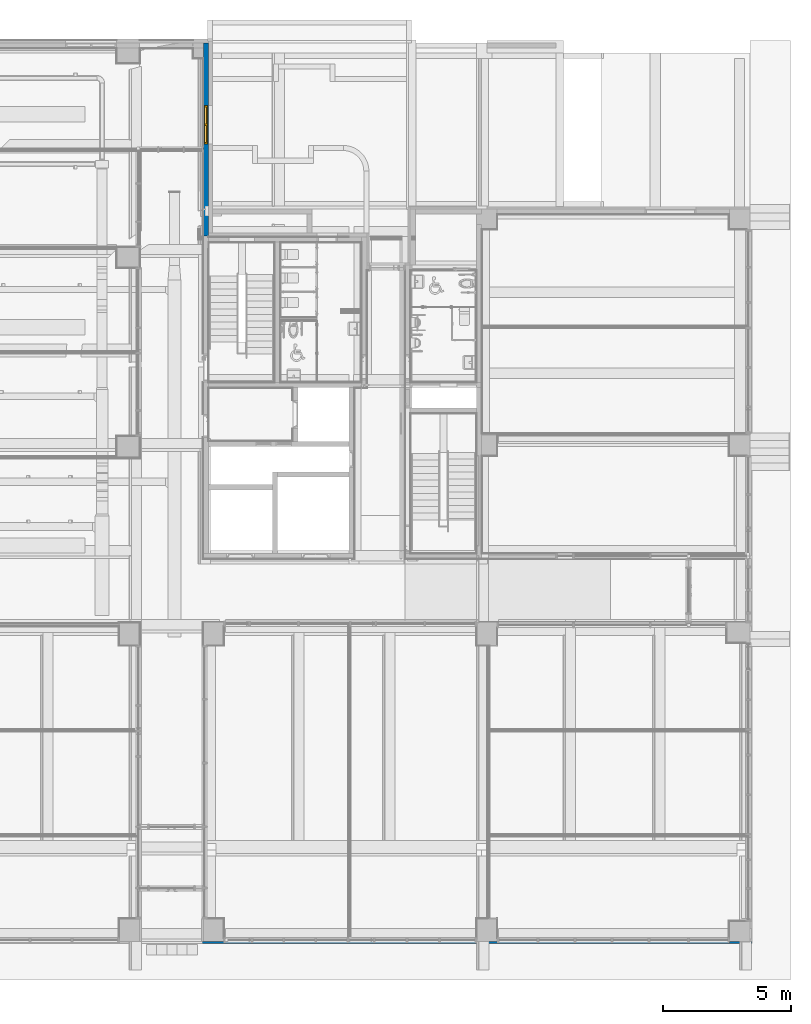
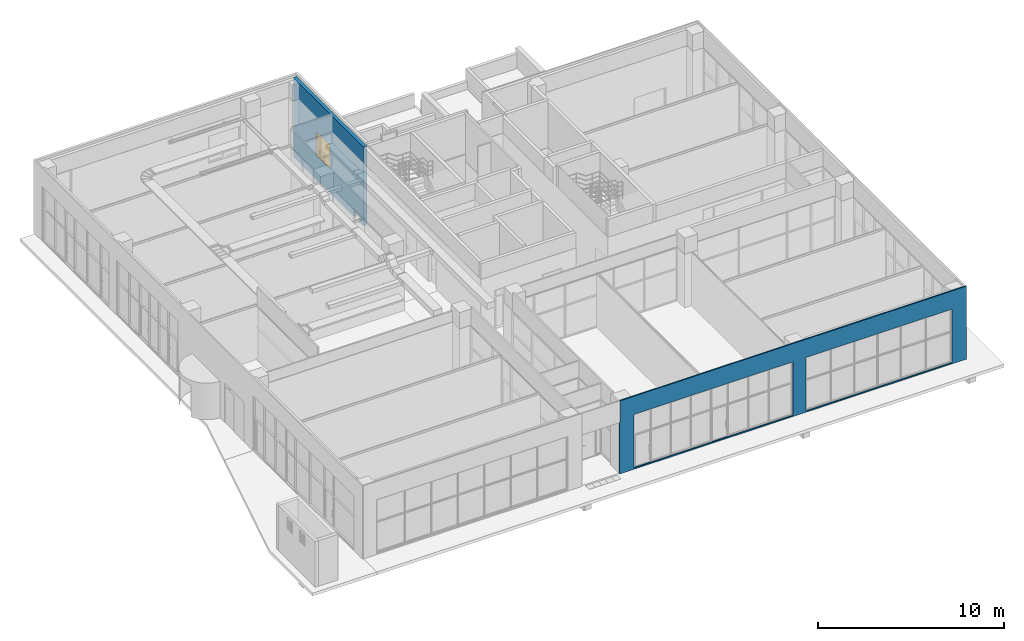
# One storey, part 66 of 100: 2 walls, 1 window, 1 opening.
"""IFC2X3 building model written with IfcOpenShell, lengths in millimetres."""

from ifc_helpers import new_model, entity, si_unit, converted_unit, derived_unit, direction, frame, frame_2d, origin, place, context, subcontext, project, spatial, rectangle, extrude, faceted_brep, source, transform, mapped, material, material_list, layer, layer_set, type_object, type_shapes, element, fill, save


model = new_model("IFC2X3")

# Units and contexts
model_context = context("Model", 3, precision=0.01, world=origin(), true_north=direction((6.123031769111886e-17, 1.0)))
body_context = subcontext(model_context, "Body", "Model", "MODEL_VIEW")
ifc_project = project(units=[si_unit("LENGTHUNIT", "METRE", prefix="MILLI"), si_unit("AREAUNIT", "SQUARE_METRE"), si_unit("VOLUMEUNIT", "CUBIC_METRE"), converted_unit("PLANEANGLEUNIT", "DEGREE", entity("IfcRatioMeasure", 0.017453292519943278), si_unit("PLANEANGLEUNIT", "RADIAN"), dimensions=[0, 0, 0, 0, 0, 0, 0]), si_unit("MASSUNIT", "GRAM", prefix="KILO"), derived_unit("MASSDENSITYUNIT", [(si_unit("MASSUNIT", "GRAM", prefix="KILO"), 1), (si_unit("LENGTHUNIT", "METRE"), -3)]), derived_unit("MOMENTOFINERTIAUNIT", [(si_unit("LENGTHUNIT", "METRE"), 4)]), si_unit("TIMEUNIT", "SECOND"), si_unit("FREQUENCYUNIT", "HERTZ"), si_unit("THERMODYNAMICTEMPERATUREUNIT", "DEGREE_CELSIUS"), derived_unit("THERMALTRANSMITTANCEUNIT", [(si_unit("MASSUNIT", "GRAM", prefix="KILO"), 1), (si_unit("THERMODYNAMICTEMPERATUREUNIT", "KELVIN"), -1), (si_unit("TIMEUNIT", "SECOND"), -3)]), derived_unit("VOLUMETRICFLOWRATEUNIT", [(si_unit("LENGTHUNIT", "METRE"), 3), (si_unit("TIMEUNIT", "SECOND"), -1)]), derived_unit("MASSFLOWRATEUNIT", [(si_unit("MASSUNIT", "GRAM", prefix="KILO"), 1), (si_unit("TIMEUNIT", "SECOND"), -1)]), derived_unit("ROTATIONALFREQUENCYUNIT", [(si_unit("TIMEUNIT", "SECOND"), -1)]), si_unit("ELECTRICCURRENTUNIT", "AMPERE"), si_unit("ELECTRICVOLTAGEUNIT", "VOLT"), si_unit("POWERUNIT", "WATT"), si_unit("FORCEUNIT", "NEWTON", prefix="KILO"), si_unit("ILLUMINANCEUNIT", "LUX"), si_unit("LUMINOUSFLUXUNIT", "LUMEN"), si_unit("LUMINOUSINTENSITYUNIT", "CANDELA"), derived_unit("USERDEFINED", [(si_unit("MASSUNIT", "GRAM", prefix="KILO"), -1), (si_unit("LENGTHUNIT", "METRE"), -2), (si_unit("TIMEUNIT", "SECOND"), 3), (si_unit("LUMINOUSFLUXUNIT", "LUMEN"), 1)]), derived_unit("SOUNDPOWERUNIT", [(si_unit("MASSUNIT", "GRAM", prefix="KILO"), 1), (si_unit("LENGTHUNIT", "METRE"), 2), (si_unit("TIMEUNIT", "SECOND"), -3)]), derived_unit("SOUNDPRESSUREUNIT", [(si_unit("MASSUNIT", "GRAM", prefix="KILO"), 1), (si_unit("LENGTHUNIT", "METRE"), -1), (si_unit("TIMEUNIT", "SECOND"), -2)]), derived_unit("LINEARVELOCITYUNIT", [(si_unit("LENGTHUNIT", "METRE"), 1), (si_unit("TIMEUNIT", "SECOND"), -1)]), si_unit("PRESSUREUNIT", "PASCAL"), derived_unit("USERDEFINED", [(si_unit("LENGTHUNIT", "METRE"), -2), (si_unit("MASSUNIT", "GRAM", prefix="KILO"), 1), (si_unit("TIMEUNIT", "SECOND"), -2)]), derived_unit("LINEARFORCEUNIT", [(si_unit("MASSUNIT", "GRAM", prefix="KILO"), 1), (si_unit("LENGTHUNIT", "METRE"), 1), (si_unit("TIMEUNIT", "SECOND"), -2), (si_unit("LENGTHUNIT", "METRE"), -1)]), derived_unit("PLANARFORCEUNIT", [(si_unit("MASSUNIT", "GRAM", prefix="KILO"), 1), (si_unit("LENGTHUNIT", "METRE"), 1), (si_unit("TIMEUNIT", "SECOND"), -2), (si_unit("LENGTHUNIT", "METRE"), -2)])], contexts=[model_context])

# Site, building, storey
site_placement = place(None, frame((-14167.972527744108, -657.2125860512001, 0.0)))
site = spatial("IfcSite", under=ifc_project, at=site_placement, Name="Default", CompositionType="ELEMENT")
building_placement = place(site_placement, origin())
building = spatial("IfcBuilding", under=site, at=building_placement, Name="Sample Building", CompositionType="ELEMENT")
storey_placement = place(building_placement, origin())
storey = spatial("IfcBuildingStorey", under=building, at=storey_placement, Name="지상 1층", CompositionType="ELEMENT", Elevation=0.0)

# Wall, opening, window
ifc_material_1 = material(Name="KBIMS-콘크리트")
ifc_layer_1 = layer(ifc_material_1, 200.0)
ifc_layer_set_1 = layer_set([ifc_layer_1], Name="기본 벽:WA111-철근콘크리트구조 벽 200mm_CW1")
wall_type_1 = type_object("IfcWallType", Name="기본 벽:WA111-철근콘크리트구조 벽 200mm_CW1", PredefinedType="STANDARD", material=ifc_layer_set_1)
wall_1_placement = place(storey_placement, frame((30166.125814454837, 28197.212295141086, -550.0), z_axis=(0.0, 0.0, 1.0), x_axis=(0.0, 1.0, 0.0)))
wall_1 = element("IfcWall", 1, at=wall_1_placement, inside=storey, type_object=wall_type_1, Name="기본 벽:WA111-철근콘크리트구조 벽 200mm_CW1", ObjectType="기본 벽:WA111-철근콘크리트구조 벽 200mm_CW1", context=body_context, shape_type="Brep", body=[
    faceted_brep([(1060.0000128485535, -100.0, 0.0), (1039.3215138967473, -100.0, 0.0), (1030.2291888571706, 0.0816834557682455, 0.0), (1019.4893677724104, 100.0, 0.0), (1060.0000128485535, 100.0, 0.0), (7560.0, 100.0, 0.0), (7560.0, -100.0, 0.0), (7160.0, -100.0, 0.0), (6959.864820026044, -100.0, 0.0), (437.0566962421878, -100.0, 0.0), (0.0, -100.0, 0.0), (0.0, 100.0, 0.0), (415.03541534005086, 100.0, 0.0), (426.96071725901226, 0.10071008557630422, 0.0), (437.0566962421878, -100.0, 400.0), (0.0, -100.0, 550.0), (1039.3215138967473, -100.0, 400.0), (0.0, -100.0, 5200.0), (3610.0, -100.0, 3150.0), (3610.0, -100.0, 1550.0), (5110.0, -100.0, 1550.0), (5110.0, -100.0, 3150.0), (7560.0, -100.0, 5200.0), (6960.000321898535, -100.0, 5200.0), (7560.0, 100.0, 550.0), (5110.0, 100.0, 1550.0), (5110.0, 100.0, 3150.0), (7360.0, 100.0, 5200.0), (7560.0, 100.0, 5200.0), (3610.0, 100.0, 1550.0), (1019.4893677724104, 100.0, 400.0), (3610.0, 100.0, 3150.0), (0.0, 100.0, 5200.0), (0.0, 100.0, 550.0), (415.03541534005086, 100.0, 400.0), (6960.000321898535, 100.0, 5200.0), (1030.2273595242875, 0.10013132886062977, 400.0), (426.9587160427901, 0.11888510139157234, 400.0)], [[[0, 1, 2, 3, 4, 5, 6, 7, 8]], [[9, 10, 11, 12, 13]], [[14, 10, 9]], [[15, 10, 14]], [[14, 16, 15]], [[17, 15, 16]], [[17, 16, 18]], [[19, 18, 16]], [[0, 19, 16]], [[16, 1, 0]], [[8, 19, 0]], [[8, 20, 19]], [[20, 8, 7]], [[20, 7, 21]], [[21, 7, 6]], [[6, 22, 21]], [[21, 22, 23]], [[21, 23, 18]], [[18, 23, 17]], [[24, 5, 25]], [[24, 25, 26]], [[24, 26, 27]], [[28, 24, 27]], [[5, 29, 25]], [[4, 29, 5]], [[30, 29, 4]], [[30, 4, 3]], [[30, 31, 29]], [[30, 32, 31]], [[33, 32, 30]], [[33, 30, 34]], [[33, 34, 11]], [[11, 34, 12]], [[31, 32, 35]], [[35, 26, 31]], [[26, 35, 27]], [[15, 17, 32, 33, 11, 10]], [[22, 6, 5, 24, 28]], [[22, 28, 27, 35, 32, 17, 23]], [[36, 16, 14, 37, 34, 30]], [[2, 1, 16]], [[36, 2, 16]], [[30, 3, 36]], [[2, 36, 3]], [[34, 37, 12]], [[12, 37, 13]], [[13, 14, 9]], [[14, 13, 37]], [[26, 25, 20, 21]], [[31, 26, 21, 18]], [[29, 31, 18, 19]], [[25, 29, 19, 20]]]),
])
opening_placement = place(wall_1_placement, frame((5110.0, 100.0, 1550.0)))
opening = element("IfcOpeningElement", 2, at=opening_placement, cuts=wall_1, Name="WD842-2단 하부 더블 프로젝트 창(스테인리스 스틸):WD842-2단 하부 더블 프로젝트 창(스테인리스 스틸)_1500x1600mm:1", ObjectType="Opening", context=body_context, shape_type="SweptSolid", body=[
    extrude(rectangle(XDim=1600.0000000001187, YDim=1499.9999999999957, at=frame_2d((800.0000000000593, 749.9999999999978), x_axis=(1.0, 0.0))), frame((0.0, 0.0, 0.0), z_axis=(0.0, -1.0, 0.0), x_axis=(0.0, 0.0, 1.0)), (0.0, 0.0, 1.0), 200.0),
])
ifc_material_2 = material(Name="KBIMS-스테인리스 스틸_도금")
ifc_material_3 = material(Name="KBIMS-유리")
ifc_material_list_1 = material_list([ifc_material_2, ifc_material_3, ifc_material_2, ifc_material_3, ifc_material_2, ifc_material_2, ifc_material_3])
ifc_material_list_2 = material_list([ifc_material_2, ifc_material_3, ifc_material_2, ifc_material_3, ifc_material_2, ifc_material_2, ifc_material_3])
window_style = type_object("IfcWindowStyle", Name="WD842-2단 하부 더블 프로젝트 창(스테인리스 스틸):WD842-2단 하부 더블 프로젝트 창(스테인리스 스틸)_1500x1600mm", ConstructionType="NOTDEFINED", OperationType="NOTDEFINED", ParameterTakesPrecedence=False, Sizeable=False, material=ifc_material_list_2)
shared_shape = source(origin(), body_context, "Body", "Brep", [
    faceted_brep([(60.0, 37.49999999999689, 470.0), (60.0, 162.4999999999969, 470.0), (720.0, 162.4999999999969, 470.0), (720.0, 37.49999999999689, 470.0), (0.0, 162.4999999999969, 530.0), (0.0, 37.49999999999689, 530.0), (60.0, 37.49999999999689, 530.0), (1440.0, 37.49999999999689, 530.0), (1500.0, 37.49999999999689, 530.0), (1500.0, 162.4999999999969, 530.0), (1440.0, 162.4999999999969, 530.0), (60.0, 162.4999999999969, 530.0), (1440.0, 37.49999999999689, 470.0), (1440.0, 162.4999999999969, 470.0), (1440.0, 162.4999999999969, 60.0), (1440.0, 37.49999999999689, 60.0), (1500.0, 37.49999999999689, 0.0), (1500.0, 162.4999999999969, 0.0), (780.0, 162.4999999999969, 60.0), (780.0, 37.49999999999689, 60.0), (0.0, 37.49999999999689, 0.0), (0.0, 162.4999999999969, 0.0), (60.0, 37.49999999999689, 60.0), (60.0, 162.4999999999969, 60.0), (780.0, 37.49999999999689, 470.0), (720.0, 37.49999999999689, 60.0), (780.0, 162.4999999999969, 470.0), (720.0, 162.4999999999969, 60.0)], [[[0, 1, 2, 3]], [[4, 5, 6, 7, 8, 9, 10, 11]], [[12, 13, 14, 15]], [[9, 8, 16, 17]], [[15, 14, 18, 19]], [[17, 16, 20, 21]], [[1, 0, 22, 23]], [[8, 7, 6, 5, 20, 16], [12, 15, 19, 24], [0, 3, 25, 22]], [[5, 4, 21, 20]], [[14, 13, 26, 18], [23, 27, 2, 1], [4, 11, 10, 9, 17, 21]], [[18, 26, 24, 19]], [[2, 27, 25, 3]], [[23, 22, 25, 27]], [[13, 12, 24, 26]]], outer=[[True], [True], [True], [True], [True], [True], [True], [True, False, False], [True], [False, False, True], [True], [True], [True], [True]]),
    faceted_brep([(680.0, 151.0, 430.0), (680.0, 139.0, 430.0), (680.0, 139.0, 100.0), (680.0, 151.0, 100.0), (100.0, 139.0, 430.0), (100.0, 139.0, 100.0), (100.0, 151.0, 430.0), (100.0, 151.0, 100.0)], [[[0, 1, 2, 3]], [[1, 4, 5, 2]], [[4, 6, 7, 5]], [[0, 6, 4, 1]], [[3, 2, 5, 7]], [[6, 0, 3, 7]]]),
    faceted_brep([(110.0, 151.0, 420.0), (110.0, 160.0, 420.0), (670.0, 160.0, 420.0), (670.0, 151.0, 420.0), (100.0, 139.0, 430.0), (100.0, 151.0, 430.0), (680.0, 151.0, 430.0), (680.0, 139.0, 430.0), (110.0, 130.0, 420.0), (110.0, 139.0, 420.0), (670.0, 139.0, 420.0), (670.0, 130.0, 420.0), (60.0, 160.0, 470.0), (60.0, 130.0, 470.0), (720.0, 130.0, 470.0), (720.0, 160.0, 470.0), (670.0, 160.0, 110.0), (670.0, 151.0, 110.0), (680.0, 151.0, 100.0), (680.0, 139.0, 100.0), (670.0, 139.0, 110.0), (670.0, 130.0, 110.0), (720.0, 130.0, 60.0), (720.0, 160.0, 60.0), (110.0, 160.0, 110.0), (110.0, 151.0, 110.0), (100.0, 151.0, 100.0), (100.0, 139.0, 100.0), (110.0, 139.0, 110.0), (110.0, 130.0, 110.0), (60.0, 130.0, 60.0), (60.0, 160.0, 60.0)], [[[0, 1, 2, 3]], [[4, 5, 6, 7]], [[8, 9, 10, 11]], [[12, 13, 14, 15]], [[3, 2, 16, 17]], [[7, 6, 18, 19]], [[11, 10, 20, 21]], [[15, 14, 22, 23]], [[17, 16, 24, 25]], [[19, 18, 26, 27]], [[21, 20, 28, 29]], [[23, 22, 30, 31]], [[25, 24, 1, 0]], [[3, 17, 25, 0], [5, 26, 18, 6]], [[27, 26, 5, 4]], [[7, 19, 27, 4], [9, 28, 20, 10]], [[29, 28, 9, 8]], [[11, 21, 29, 8], [13, 30, 22, 14]], [[31, 30, 13, 12]], [[1, 24, 16, 2], [15, 23, 31, 12]]], outer=[[True], [True], [True], [True], [True], [True], [True], [True], [True], [True], [True], [True], [True], [False, True], [True], [True, False], [True], [False, True], [True], [False, True]]),
    faceted_brep([(1400.0, 151.0, 430.0), (820.0, 151.0, 430.0), (820.0, 139.0, 430.0), (1400.0, 139.0, 430.0), (1400.0, 151.0, 100.0), (1400.0, 139.0, 100.0), (820.0, 139.0, 100.0), (820.0, 151.0, 100.0)], [[[0, 1, 2, 3]], [[4, 5, 6, 7]], [[1, 0, 4, 7]], [[2, 1, 7, 6]], [[3, 2, 6, 5]], [[0, 3, 5, 4]]]),
    faceted_brep([(820.0, 139.0, 100.0), (820.0, 151.0, 100.0), (820.0, 151.0, 430.0), (820.0, 139.0, 430.0), (1390.0, 151.0, 420.0), (1390.0, 151.0, 110.0), (830.0, 151.0, 110.0), (830.0, 151.0, 420.0), (1400.0, 151.0, 100.0), (1400.0, 151.0, 430.0), (830.0, 160.0, 110.0), (830.0, 160.0, 420.0), (1390.0, 160.0, 420.0), (1390.0, 160.0, 110.0), (1400.0, 139.0, 430.0), (1400.0, 139.0, 100.0), (1390.0, 130.0, 420.0), (1390.0, 139.0, 420.0), (1390.0, 139.0, 110.0), (1390.0, 130.0, 110.0), (830.0, 130.0, 420.0), (830.0, 139.0, 420.0), (780.0, 160.0, 470.0), (780.0, 130.0, 470.0), (1440.0, 130.0, 470.0), (1440.0, 160.0, 470.0), (1440.0, 130.0, 60.0), (1440.0, 160.0, 60.0), (830.0, 139.0, 110.0), (830.0, 130.0, 110.0), (780.0, 130.0, 60.0), (780.0, 160.0, 60.0)], [[[0, 1, 2, 3]], [[4, 5, 6, 7], [2, 1, 8, 9]], [[6, 10, 11, 7]], [[4, 12, 13, 5]], [[14, 9, 8, 15]], [[16, 17, 18, 19]], [[7, 11, 12, 4]], [[3, 2, 9, 14]], [[20, 21, 17, 16]], [[22, 23, 24, 25]], [[25, 24, 26, 27]], [[5, 13, 10, 6]], [[15, 8, 1, 0]], [[19, 18, 28, 29]], [[27, 26, 30, 31]], [[14, 15, 0, 3], [21, 28, 18, 17]], [[29, 28, 21, 20]], [[16, 19, 29, 20], [23, 30, 26, 24]], [[31, 30, 23, 22]], [[11, 10, 13, 12], [25, 27, 31, 22]]], outer=[[True], [False, True], [True], [True], [True], [True], [True], [True], [True], [True], [True], [True], [True], [True], [True], [True, False], [True], [False, True], [True], [False, True]]),
    faceted_brep([(60.0, 37.50000000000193, 1540.0), (60.0, 162.50000000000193, 1540.0), (1440.0, 162.50000000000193, 1540.0), (1440.0, 37.50000000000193, 1540.0), (0.0, 162.50000000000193, 1600.0), (0.0, 37.50000000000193, 1600.0), (1500.0, 37.50000000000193, 1600.0), (1500.0, 162.50000000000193, 1600.0), (1440.0, 162.50000000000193, 530.0), (1440.0, 37.50000000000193, 530.0), (1500.0, 37.50000000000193, 530.0), (1500.0, 162.50000000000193, 530.0), (60.0, 37.50000000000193, 530.0), (60.0, 162.50000000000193, 530.0), (0.0, 37.50000000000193, 530.0), (0.0, 162.50000000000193, 530.0)], [[[0, 1, 2, 3]], [[4, 5, 6, 7]], [[3, 2, 8, 9]], [[7, 6, 10, 11]], [[1, 0, 12, 13]], [[0, 3, 9, 10, 6, 5, 14, 12]], [[5, 4, 15, 14]], [[2, 1, 13, 15, 4, 7, 11, 8]], [[13, 12, 14, 15]], [[9, 8, 11, 10]]]),
    faceted_brep([(1440.0, 106.0, 1540.0), (60.0, 106.0, 1540.0), (60.0, 94.0, 1540.0), (1440.0, 94.0, 1540.0), (1440.0, 106.0, 530.0), (60.0, 106.0, 530.0), (60.0, 94.0, 530.0), (1440.0, 94.0, 530.0)], [[[0, 1, 2, 3]], [[1, 0, 4, 5]], [[2, 1, 5, 6]], [[3, 2, 6, 7]], [[0, 3, 7, 4]], [[5, 4, 7, 6]]]),
])
type_shapes(window_style, [shared_shape])
window_placement = place(opening_placement, frame((0.0, 0.0, 0.0), z_axis=(0.0, 0.0, 1.0), x_axis=(-1.0, 0.0, 0.0)))
window = element("IfcWindow", 3, at=window_placement, inside=storey, type_object=window_style, material=ifc_material_list_1, Name="WD842-2단 하부 더블 프로젝트 창(스테인리스 스틸):WD842-2단 하부 더블 프로젝트 창(스테인리스 스틸)_1500x1600mm", ObjectType="WD842-2단 하부 더블 프로젝트 창(스테인리스 스틸):WD842-2단 하부 더블 프로젝트 창(스테인리스 스틸)_1500x1600mm", OverallHeight=1600.0000000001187, OverallWidth=1499.9999999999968, context=body_context, shape_type="MappedRepresentation", body=[
    mapped(shared_shape, transform((0.0, 0.0, 0.0), scale=1.0)),
])
fill(opening, window)

# Wall
ifc_material_4 = material(Name="KBIMS-화강석 잔다듬")
ifc_layer_2 = layer(ifc_material_4, 80.0)
ifc_layer_set_2 = layer_set([ifc_layer_2], Name="기본 벽:WA313-화강석잔다듬 벽 (30, 건식50) 80mm")
wall_type_2 = type_object("IfcWallType", Name="기본 벽:WA313-화강석잔다듬 벽 (30, 건식50) 80mm", PredefinedType="STANDARD", material=ifc_layer_set_2)
wall_2_placement = place(storey_placement, frame((29987.972463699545, 517.2126170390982, 0.0)))
element("IfcWall", 4, at=wall_2_placement, inside=storey, type_object=wall_type_2, Name="기본 벽:WA313-화강석잔다듬 벽 (30, 건식50) 80mm", ObjectType="기본 벽:WA313-화강석잔다듬 벽 (30, 건식50) 80mm", context=body_context, shape_type="Brep", body=[
    faceted_brep([(0.0, -40.0, 0.0), (21559.991365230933, -40.0, 0.0), (21559.991365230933, -40.0, 4800.0), (40.0, -40.0, 4800.0), (40.0, -40.0, 3380.0), (0.0, -40.0, 3380.0), (11598.000027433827, -40.0, 80.0), (11598.000027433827, -40.0, 3600.0), (20680.0, -40.0, 3600.0), (20680.0, -40.0, 80.0), (880.00002743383, -40.0, 80.0), (880.00002743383, -40.0, 3600.0), (10780.00002743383, -40.0, 3600.0), (10780.00002743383, -40.0, 80.0), (11598.000027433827, 40.0, 3600.0), (11598.000027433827, 40.0, 80.0), (20680.0, 40.0, 80.0), (20680.0, 40.0, 3600.0), (880.0000274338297, 40.0, 3600.0), (880.0000274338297, 40.0, 80.0), (10780.00002743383, 40.0, 80.0), (10780.00002743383, 40.0, 3600.0), (21559.991365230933, 40.0, 0.0), (20680.0, 40.0, 0.0), (11580.00002743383, 40.0, 0.0), (10780.00002743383, 40.0, 0.0), (880.0000274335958, 40.0, 0.0), (80.0, 40.0, 0.0), (0.0, 40.0, 0.0), (0.0, 40.0, 3380.0), (40.0, 40.0, 3380.0), (40.0, 40.0, 4800.0), (11580.00002743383, 40.0, 4800.0), (20680.0, 40.0, 4800.0), (21479.991365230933, 40.0, 4800.0), (21559.991365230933, 40.0, 4800.0)], [[[0, 1, 2, 3, 4, 5], [6, 7, 8, 9], [10, 11, 12, 13]], [[14, 15, 16, 17], [18, 19, 20, 21], [22, 23, 24, 25, 26, 27, 28, 29, 30, 31, 32, 33, 34, 35]], [[2, 1, 22, 35]], [[1, 0, 28, 27, 26, 25, 24, 23, 22]], [[3, 2, 35, 34, 33, 32, 31]], [[3, 31, 30, 4]], [[0, 5, 29, 28]], [[4, 30, 29, 5]], [[6, 15, 14, 7]], [[7, 14, 17, 8]], [[8, 17, 16, 9]], [[15, 6, 9, 16]], [[10, 19, 18, 11]], [[11, 18, 21, 12]], [[12, 21, 20, 13]], [[19, 10, 13, 20]]], outer=[[True, False, False], [False, False, True], [True], [True], [True], [True], [True], [True], [True], [True], [True], [True], [True], [True], [True], [True]]),
])

save(model, "model.ifc")
